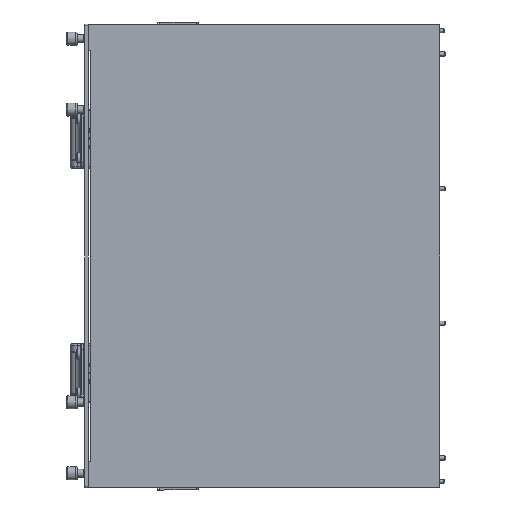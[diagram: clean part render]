
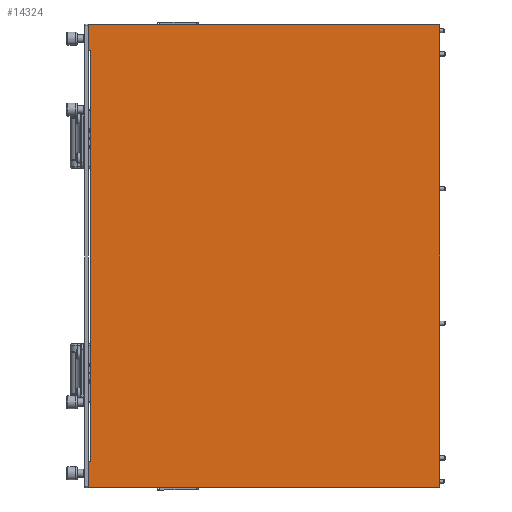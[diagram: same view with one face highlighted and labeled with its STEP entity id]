
A CAD part, front view. The second image highlights one B-rep face of the part: STEP entity #14324.
In plain terms, the highlighted planar face has unit normal (0, -1, 0).
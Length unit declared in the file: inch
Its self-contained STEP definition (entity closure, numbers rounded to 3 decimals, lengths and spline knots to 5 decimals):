
#14013=CARTESIAN_POINT('',(-6.6292,-6.875,-0.06));
#14014=VERTEX_POINT('',#14013);
#14023=CARTESIAN_POINT('',(-6.6292,-6.875,-15.786));
#14024=VERTEX_POINT('',#14023);
#14025=CARTESIAN_POINT('',(-6.6292,-6.875,-0.06));
#14026=DIRECTION('',(0.0,0.0,-1.0));
#14027=VECTOR('',#14026,15.726);
#14028=LINE('',#14025,#14027);
#14029=EDGE_CURVE('',#14014,#14024,#14028,.T.);
#14053=CARTESIAN_POINT('',(-6.6892,-6.875,-15.846));
#14054=VERTEX_POINT('',#14053);
#14055=CARTESIAN_POINT('',(-6.6892,-6.875,-15.786));
#14056=DIRECTION('',(0.,1.0,0.));
#14057=DIRECTION('',(0.707,0.,-0.707));
#14058=AXIS2_PLACEMENT_3D('',#14055,#14056,#14057);
#14059=CIRCLE('',#14058,0.06);
#14060=EDGE_CURVE('',#14024,#14054,#14059,.T.);
#14088=CARTESIAN_POINT('',(-6.6892,-6.875,0.));
#14089=VERTEX_POINT('',#14088);
#14104=CARTESIAN_POINT('',(-18.6292,-6.875,0.));
#14105=VERTEX_POINT('',#14104);
#14112=CARTESIAN_POINT('',(-18.6292,-6.875,0.));
#14113=DIRECTION('',(1.0,0.0,0.0));
#14114=VECTOR('',#14113,11.94);
#14115=LINE('',#14112,#14114);
#14116=EDGE_CURVE('',#14105,#14089,#14115,.T.);
#14126=CARTESIAN_POINT('',(-6.6892,-6.875,-0.06));
#14127=DIRECTION('',(0.,1.0,0.));
#14128=DIRECTION('',(0.707,0.,0.707));
#14129=AXIS2_PLACEMENT_3D('',#14126,#14127,#14128);
#14130=CIRCLE('',#14129,0.06);
#14131=EDGE_CURVE('',#14089,#14014,#14130,.T.);
#14235=CARTESIAN_POINT('',(-12.6292,-6.875,-7.923));
#14236=DIRECTION('',(0.0,-1.0,0.0));
#14237=DIRECTION('',(0.0,0.0,1.0));
#14238=AXIS2_PLACEMENT_3D('',#14235,#14236,#14237);
#14239=PLANE('',#14238);
#14240=ORIENTED_EDGE('',*,*,#14131,.F.);
#14241=ORIENTED_EDGE('',*,*,#14116,.F.);
#14242=CARTESIAN_POINT('',(-18.6292,-6.875,-0.8998));
#14243=VERTEX_POINT('',#14242);
#14244=CARTESIAN_POINT('',(-18.6292,-6.875,-0.8998));
#14245=DIRECTION('',(0.0,0.0,1.0));
#14246=VECTOR('',#14245,0.8998);
#14247=LINE('',#14244,#14246);
#14248=EDGE_CURVE('',#14243,#14105,#14247,.T.);
#14249=ORIENTED_EDGE('',*,*,#14248,.F.);
#14250=CARTESIAN_POINT('',(-18.538,-6.875,-0.8998));
#14251=VERTEX_POINT('',#14250);
#14252=CARTESIAN_POINT('',(-18.6292,-6.875,-0.8998));
#14253=DIRECTION('',(1.0,0.0,0.0));
#14254=VECTOR('',#14253,0.0912);
#14255=LINE('',#14252,#14254);
#14256=EDGE_CURVE('',#14243,#14251,#14255,.T.);
#14257=ORIENTED_EDGE('',*,*,#14256,.T.);
#14258=CARTESIAN_POINT('',(-18.538,-6.875,-0.9));
#14259=VERTEX_POINT('',#14258);
#14260=CARTESIAN_POINT('',(-18.538,-6.875,-0.8998));
#14261=DIRECTION('',(0.0,0.0,-1.0));
#14262=VECTOR('',#14261,0.0002);
#14263=LINE('',#14260,#14262);
#14264=EDGE_CURVE('',#14251,#14259,#14263,.T.);
#14265=ORIENTED_EDGE('',*,*,#14264,.T.);
#14266=CARTESIAN_POINT('',(-18.5382,-6.875,-0.9));
#14267=VERTEX_POINT('',#14266);
#14268=CARTESIAN_POINT('',(-18.538,-6.875,-0.9));
#14269=DIRECTION('',(-1.0,0.0,0.0));
#14270=VECTOR('',#14269,0.0002);
#14271=LINE('',#14268,#14270);
#14272=EDGE_CURVE('',#14259,#14267,#14271,.T.);
#14273=ORIENTED_EDGE('',*,*,#14272,.T.);
#14274=CARTESIAN_POINT('',(-18.5382,-6.875,-14.946));
#14275=VERTEX_POINT('',#14274);
#14276=CARTESIAN_POINT('',(-18.5382,-6.875,-0.9));
#14277=DIRECTION('',(0.0,0.0,-1.0));
#14278=VECTOR('',#14277,14.046);
#14279=LINE('',#14276,#14278);
#14280=EDGE_CURVE('',#14267,#14275,#14279,.T.);
#14281=ORIENTED_EDGE('',*,*,#14280,.T.);
#14282=CARTESIAN_POINT('',(-18.538,-6.875,-14.946));
#14283=VERTEX_POINT('',#14282);
#14284=CARTESIAN_POINT('',(-18.5382,-6.875,-14.946));
#14285=DIRECTION('',(1.0,0.0,0.0));
#14286=VECTOR('',#14285,0.0002);
#14287=LINE('',#14284,#14286);
#14288=EDGE_CURVE('',#14275,#14283,#14287,.T.);
#14289=ORIENTED_EDGE('',*,*,#14288,.T.);
#14290=CARTESIAN_POINT('',(-18.538,-6.875,-14.9462));
#14291=VERTEX_POINT('',#14290);
#14292=CARTESIAN_POINT('',(-18.538,-6.875,-14.946));
#14293=DIRECTION('',(0.0,0.0,-1.0));
#14294=VECTOR('',#14293,0.0002);
#14295=LINE('',#14292,#14294);
#14296=EDGE_CURVE('',#14283,#14291,#14295,.T.);
#14297=ORIENTED_EDGE('',*,*,#14296,.T.);
#14298=CARTESIAN_POINT('',(-18.6292,-6.875,-14.9462));
#14299=VERTEX_POINT('',#14298);
#14300=CARTESIAN_POINT('',(-18.538,-6.875,-14.9462));
#14301=DIRECTION('',(-1.0,0.0,0.0));
#14302=VECTOR('',#14301,0.0912);
#14303=LINE('',#14300,#14302);
#14304=EDGE_CURVE('',#14291,#14299,#14303,.T.);
#14305=ORIENTED_EDGE('',*,*,#14304,.T.);
#14306=CARTESIAN_POINT('',(-18.6292,-6.875,-15.846));
#14307=VERTEX_POINT('',#14306);
#14308=CARTESIAN_POINT('',(-18.6292,-6.875,-15.846));
#14309=DIRECTION('',(0.0,0.0,1.0));
#14310=VECTOR('',#14309,0.8998);
#14311=LINE('',#14308,#14310);
#14312=EDGE_CURVE('',#14307,#14299,#14311,.T.);
#14313=ORIENTED_EDGE('',*,*,#14312,.F.);
#14314=CARTESIAN_POINT('',(-6.6892,-6.875,-15.846));
#14315=DIRECTION('',(-1.0,0.0,0.0));
#14316=VECTOR('',#14315,11.94);
#14317=LINE('',#14314,#14316);
#14318=EDGE_CURVE('',#14054,#14307,#14317,.T.);
#14319=ORIENTED_EDGE('',*,*,#14318,.F.);
#14320=ORIENTED_EDGE('',*,*,#14060,.F.);
#14321=ORIENTED_EDGE('',*,*,#14029,.F.);
#14322=EDGE_LOOP('',(#14240,#14241,#14249,#14257,#14265,#14273,#14281,#14289,#14297,#14305,#14313,#14319,#14320,#14321));
#14323=FACE_OUTER_BOUND('',#14322,.T.);
#14324=ADVANCED_FACE('',(#14323),#14239,.T.);
